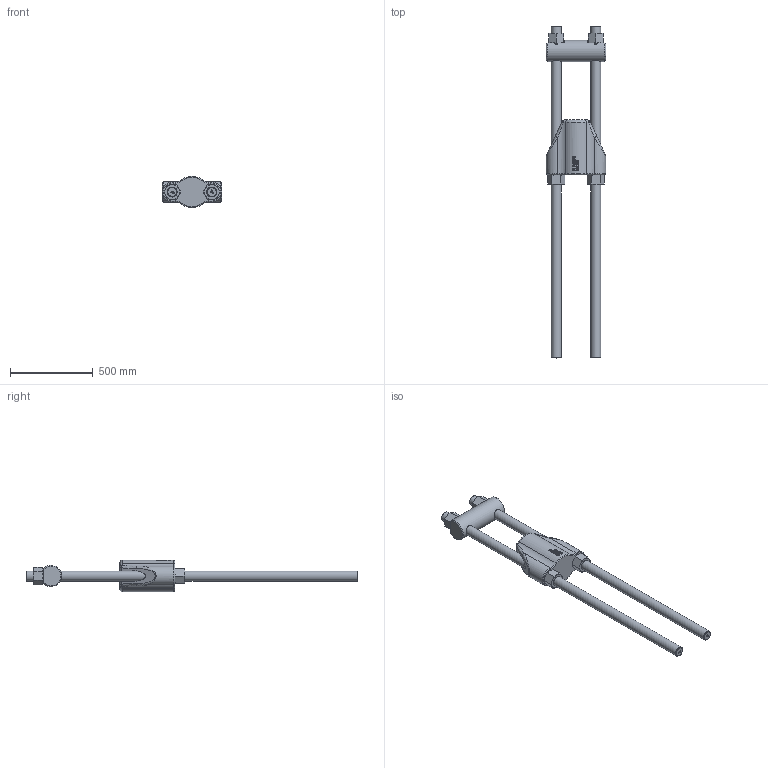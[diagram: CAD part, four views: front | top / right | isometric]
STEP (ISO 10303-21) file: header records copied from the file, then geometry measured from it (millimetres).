
FILE_DESCRIPTION(/* description */ (''),/* implementation_level */ '2;1');
FILE_NAME(/* name */ 'D:\Clienti\Redaelli (inventor)\BRC\STEP\Arrangemet\BRC060 72 111 0.stp',/* time_stamp */ '2021-05-08T08:29:39+02:00',/* author */ ('fabri'),/* organization */ (''),/* preprocessor_version */ 'ST-DEVELOPER v16.13',/* originating_system */ 'Autodesk Inventor 2018',/* authorisation */ '');
FILE_SCHEMA (('AUTOMOTIVE_DESIGN { 1 0 10303 214 3 1 1 }'));
Length unit declared in the file: millimetre
Products named in the file (5): BRC020 72 111 0; BRC020 71 112 0; BRC020 71 114 0_ROD; BRC020 71 113 0; BRC020 71 114 0_NUT
Assembly tree (8 placements, depth 2):
  BRC020 72 111 0
    BRC020 71 112 0
    BRC020 71 114 0_ROD  x2
    BRC020 71 113 0
    BRC020 71 114 0_NUT  x4
Bounding box: 358 x 2000 x 189.72 mm (x, y, z)
Volume: 28055920.6 mm3; surface area: 1519292.7 mm2
Topology: 8 solids, 8 shells, 1554 faces, 4098 edges, 2702 vertices
Faces by surface type: bspline 751, plane 668, cone 62, cylinder 49, torus 20, sphere 4
Full cylindrical faces by diameter (mm): 55.67 x4, 60 x2, 63 x4, 128 x1
Entity records: 30724 total; most frequent: CARTESIAN_POINT 12397, ORIENTED_EDGE 4426, DIRECTION 2473, EDGE_CURVE 2213, VERTEX_POINT 1466, LINE 1153, VECTOR 1153, EDGE_LOOP 941
